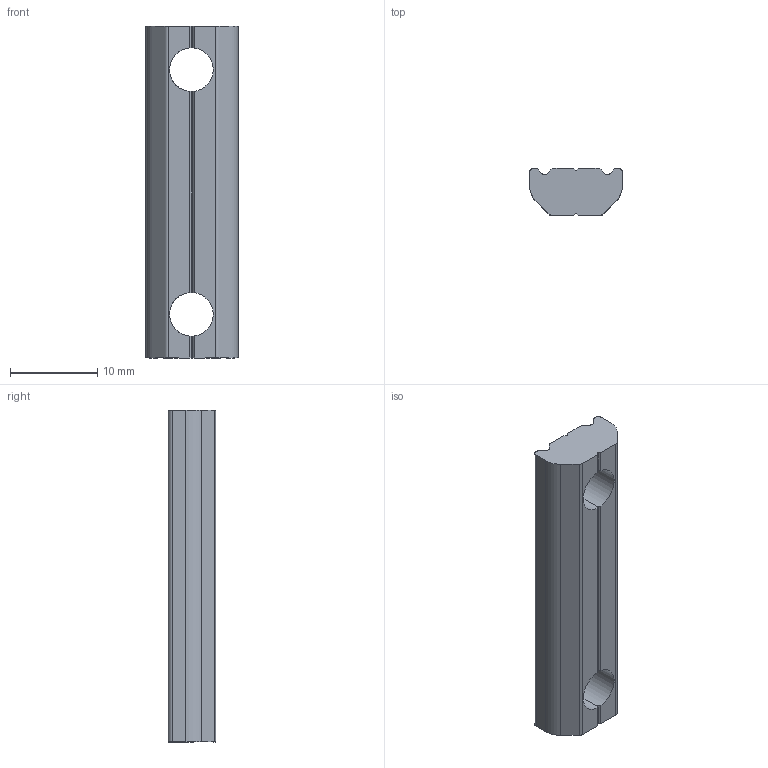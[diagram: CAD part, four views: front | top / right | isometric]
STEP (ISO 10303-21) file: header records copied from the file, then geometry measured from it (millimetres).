
FILE_DESCRIPTION (( 'STEP AP214' ), '1' );
FILE_NAME ('PTN-M5P28.STEP', '2019-10-30T02:23:31', ( '微软用户' ), ( '微软中国' ), 'SwSTEP 2.0', 'SolidWorks 2016', '' );
FILE_SCHEMA (( 'AUTOMOTIVE_DESIGN' ));
Length unit declared in the file: millimetre
Products named in the file (1): PTN-M5P28
Bounding box: 10.6 x 5.4 x 38 mm (x, y, z)
Volume: 1666.5 mm3; surface area: 1326.5 mm2
Topology: 1 solids, 1 shells, 52 faces, 154 edges, 100 vertices
Faces by surface type: plane 30, cylinder 22
Entity records: 1884 total; most frequent: CARTESIAN_POINT 485, ORIENTED_EDGE 308, DIRECTION 272, EDGE_CURVE 154, VERTEX_POINT 100, AXIS2_PLACEMENT_3D 91, VECTOR 90, LINE 90
